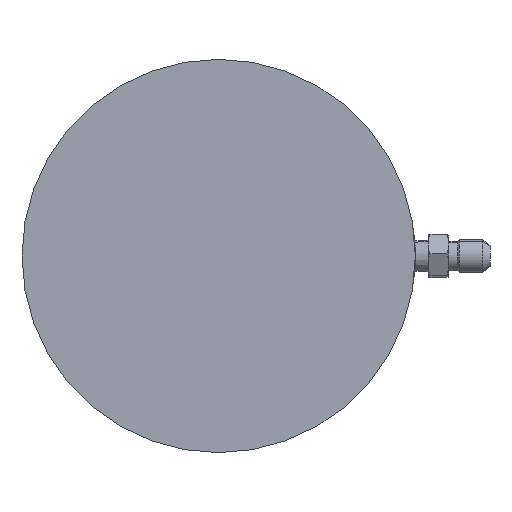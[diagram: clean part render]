
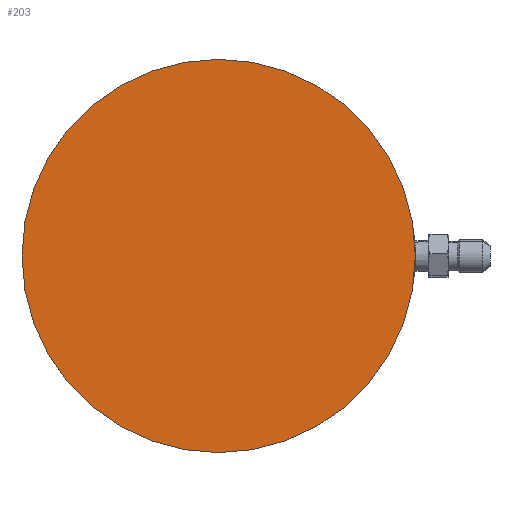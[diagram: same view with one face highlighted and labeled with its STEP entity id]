
A CAD part, front view. The second image highlights one B-rep face of the part: STEP entity #203.
In plain terms, the highlighted planar face has unit normal (0, -1, 0).
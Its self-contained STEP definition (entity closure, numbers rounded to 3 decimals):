
#129 = CARTESIAN_POINT ( 'NONE',  ( 0., -261.3, 0. ) ) ;
#146 = AXIS2_PLACEMENT_3D ( 'NONE', #436, #881, #872 ) ;
#203 = ADVANCED_FACE ( 'NONE', ( #1053 ), #219, .F. ) ;
#219 = PLANE ( 'NONE',  #1273 ) ;
#221 = CIRCLE ( 'NONE', #800, 66.675 ) ;
#241 = DIRECTION ( 'NONE',  ( 0., 0., 1. ) ) ;
#295 = ORIENTED_EDGE ( 'NONE', *, *, #551, .F. ) ;
#308 = VERTEX_POINT ( 'NONE', #472 ) ;
#327 = CARTESIAN_POINT ( 'NONE',  ( 66.675, -261.3, 0. ) ) ;
#436 = CARTESIAN_POINT ( 'NONE',  ( 0., -261.3, 0. ) ) ;
#457 = DIRECTION ( 'NONE',  ( 0., 0., 1. ) ) ;
#471 = CARTESIAN_POINT ( 'NONE',  ( 0., -261.3, 66.675 ) ) ;
#472 = CARTESIAN_POINT ( 'NONE',  ( 0., -261.3, -66.675 ) ) ;
#489 = VERTEX_POINT ( 'NONE', #471 ) ;
#551 = EDGE_CURVE ( 'NONE', #489, #308, #221, .T. ) ;
#800 = AXIS2_PLACEMENT_3D ( 'NONE', #129, #904, #241 ) ;
#872 = DIRECTION ( 'NONE',  ( 0., 0., 1. ) ) ;
#881 = DIRECTION ( 'NONE',  ( 0., 1., 0. ) ) ;
#904 = DIRECTION ( 'NONE',  ( 0., 1., 0. ) ) ;
#1053 = FACE_OUTER_BOUND ( 'NONE', #1354, .T. ) ;
#1056 = EDGE_CURVE ( 'NONE', #308, #489, #1417, .T. ) ;
#1259 = ORIENTED_EDGE ( 'NONE', *, *, #1056, .F. ) ;
#1273 = AXIS2_PLACEMENT_3D ( 'NONE', #327, #1425, #457 ) ;
#1354 = EDGE_LOOP ( 'NONE', ( #295, #1259 ) ) ;
#1417 = CIRCLE ( 'NONE', #146, 66.675 ) ;
#1425 = DIRECTION ( 'NONE',  ( 0., 1., 0. ) ) ;
